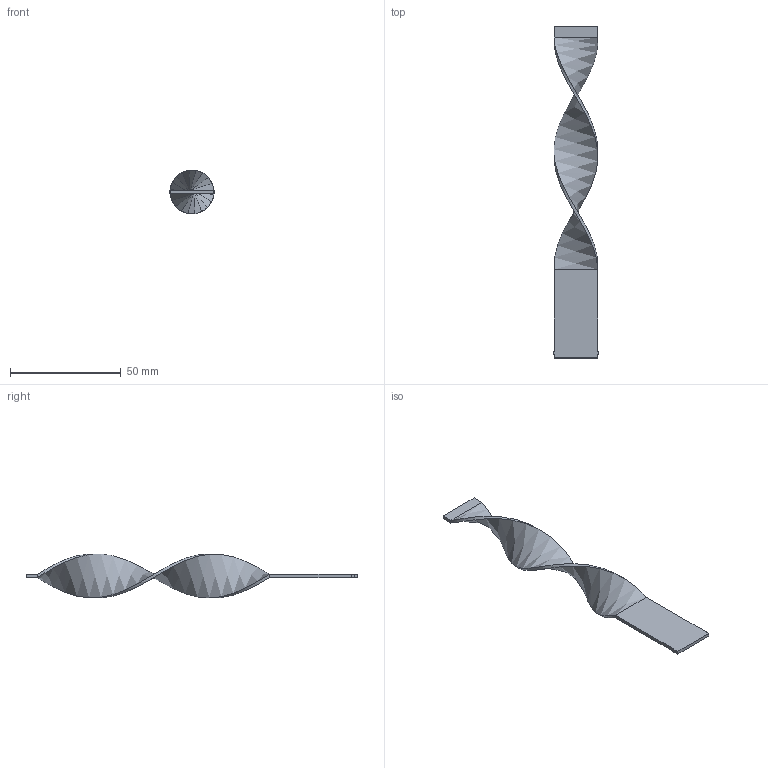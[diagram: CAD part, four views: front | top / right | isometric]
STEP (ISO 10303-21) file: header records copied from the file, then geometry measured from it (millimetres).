
FILE_DESCRIPTION (( 'STEP AP203' ), '1' );
FILE_NAME ('RLAS-20SMx150.STEP', '2015-12-10T14:20:53', ( 'Balzi' ), ( '' ), 'SwSTEP 2.0', 'SolidWorks 2015', '' );
FILE_SCHEMA (( 'CONFIG_CONTROL_DESIGN' ));
Length unit declared in the file: millimetre
Products named in the file (1): RLAS-20SMx150
Bounding box: 20.4 x 150 x 19.85 mm (x, y, z)
Volume: 4456.1 mm3; surface area: 6684.5 mm2
Topology: 1 solids, 1 shells, 22 faces, 52 edges, 32 vertices
Faces by surface type: plane 18, bspline 4
Entity records: 1481 total; most frequent: CARTESIAN_POINT 927, ORIENTED_EDGE 104, DIRECTION 86, EDGE_CURVE 52, LINE 48, VECTOR 48, VERTEX_POINT 32, ADVANCED_FACE 22
